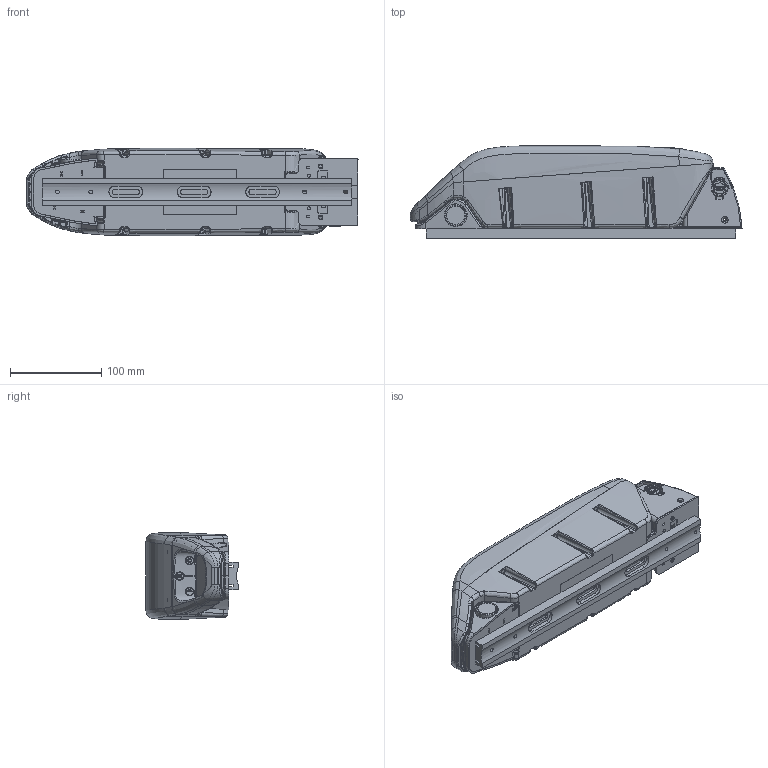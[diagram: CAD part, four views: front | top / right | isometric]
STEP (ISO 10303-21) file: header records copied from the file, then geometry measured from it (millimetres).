
FILE_DESCRIPTION(/* description */ (''),/* implementation_level */ '2;1');
FILE_NAME(/* name */ 'INFINITE_CLASSIC.step',/* time_stamp */ '2026-07-27T10:51:20+02:00',/* author */ (''),/* organization */ (''),/* preprocessor_version */ 'ST-DEVELOPER v20.1',/* originating_system */ 'Autodesk Translation Framework v15.8.0.0',/* authorisation */ '');
FILE_SCHEMA (('AUTOMOTIVE_DESIGN { 1 0 10303 214 3 1 1 }'));
Products named in the file (6): CARGO_ASM_ASM; CARGO_SUPPORT; PRT0001; PRT0002; PRT0003; PRT0005
Assembly tree (5 placements, depth 2):
  CARGO_ASM_ASM
    CARGO_SUPPORT
    PRT0001
    PRT0002
    PRT0003
    PRT0005
Bounding box: 364.08 x 101.33 x 95.75 mm (x, y, z)
Volume: 2248631.8 mm3; surface area: 339397.2 mm2
Topology: 8 solids, 14 shells, 4434 faces, 11859 edges, 7440 vertices
Faces by surface type: plane 1513, bspline 1423, cylinder 1169, cone 154, torus 128, sphere 47
Full cylindrical faces by diameter (mm): 1.2 x1, 1.392 x1, 1.7 x2, 2.1 x1, 2.178 x1, 2.5 x2, 3.2 x4, 3.226 x1, 3.3 x4, 3.5 x2, 4 x2, 4.2 x12, 4.598 x2, 5.7 x1, 6.9 x1, 7 x6, 8 x4, 8.2 x2, 9 x1, 12 x1, 13.5 x1, 20 x1, 21 x1
Entity records: 289918 total; most frequent: CARTESIAN_POINT 189511, ORIENTED_EDGE 23626, DIRECTION 17279, EDGE_CURVE 11813, VERTEX_POINT 7440, AXIS2_PLACEMENT_3D 6171, LINE 4937, VECTOR 4937
